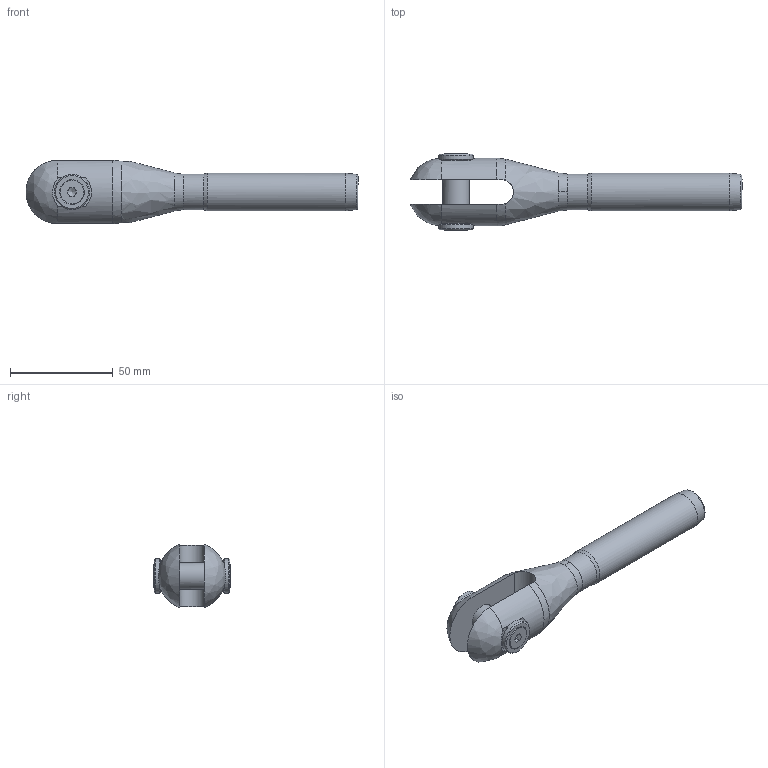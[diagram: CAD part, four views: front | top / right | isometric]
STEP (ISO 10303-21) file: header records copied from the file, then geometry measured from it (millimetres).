
FILE_DESCRIPTION(/* description */ (''),/* implementation_level */ '2;1');
FILE_NAME(/* name */ 'MAC 08_1,4418',/* time_stamp */ '2023-05-23T16:54:50+02:00',/* author */ (''),/* organization */ (''),/* preprocessor_version */ 'ST-DEVELOPER v16.5',/* originating_system */ 'Rhino 7.22',/* authorisation */ '');
FILE_SCHEMA (('CONFIG_CONTROL_DESIGN'));
Length unit declared in the file: millimetre
Products named in the file (1): Document
Bounding box: 161.34 x 37.38 x 30.74 mm (x, y, z)
Volume: 56265.4 mm3; surface area: 17955.8 mm2
Topology: 6 solids, 6 shells, 75 faces, 209 edges, 144 vertices
Faces by surface type: plane 29, bspline 24, cylinder 22
Full cylindrical faces by diameter (mm): 4.917 x2, 6 x2, 6.5 x2, 11.34 x2, 13 x1, 14 x2, 17 x2, 17.4 x1, 18.3 x1
Entity records: 3094 total; most frequent: CARTESIAN_POINT 1751, ORIENTED_EDGE 410, EDGE_CURVE 205, VERTEX_POINT 144, EDGE_LOOP 85, B_SPLINE_CURVE_WITH_KNOTS 84, ADVANCED_FACE 75, FACE_OUTER_BOUND 75
